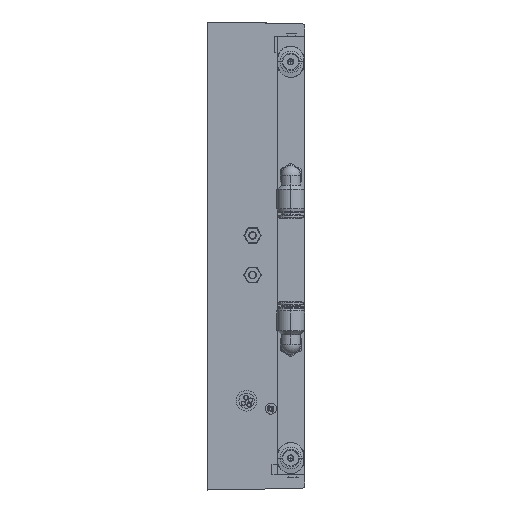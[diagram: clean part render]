
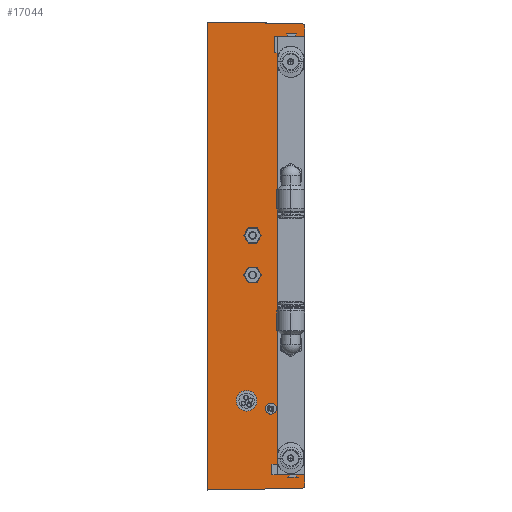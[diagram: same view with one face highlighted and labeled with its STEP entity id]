
A CAD part, left-side view. The second image highlights one B-rep face of the part: STEP entity #17044.
In plain terms, the highlighted planar face has unit normal (-1, 0, 0).
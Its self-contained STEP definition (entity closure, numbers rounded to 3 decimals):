
#200 = DIRECTION ( 'NONE',  ( -1., 0., 0. ) ) ;
#447 = EDGE_CURVE ( 'NONE', #21575, #22616, #28232, .T. ) ;
#731 = FACE_OUTER_BOUND ( 'NONE', #32740, .T. ) ;
#983 = DIRECTION ( 'NONE',  ( 0., 0., 1. ) ) ;
#1201 = CIRCLE ( 'NONE', #10112, 2.95 ) ;
#1770 = CARTESIAN_POINT ( 'NONE',  ( -65.297, 136.709, 124.258 ) ) ;
#2099 = DIRECTION ( 'NONE',  ( 0., 0., 1. ) ) ;
#2228 = AXIS2_PLACEMENT_3D ( 'NONE', #22250, #11081, #983 ) ;
#2326 = CIRCLE ( 'NONE', #31864, 2.95 ) ;
#2541 = DIRECTION ( 'NONE',  ( 0., 1., 0.017 ) ) ;
#2778 = ORIENTED_EDGE ( 'NONE', *, *, #10370, .T. ) ;
#3524 = CARTESIAN_POINT ( 'NONE',  ( -65.297, 131.271, 127.351 ) ) ;
#3568 = DIRECTION ( 'NONE',  ( 0., -1., 0. ) ) ;
#4029 = DIRECTION ( 'NONE',  ( 0., 0., 1. ) ) ;
#4249 = VERTEX_POINT ( 'NONE', #30624 ) ;
#4456 = ORIENTED_EDGE ( 'NONE', *, *, #4593, .F. ) ;
#4593 = EDGE_CURVE ( 'NONE', #29170, #23029, #27120, .T. ) ;
#4869 = EDGE_CURVE ( 'NONE', #22616, #29170, #26046, .T. ) ;
#5252 = VERTEX_POINT ( 'NONE', #15873 ) ;
#5351 = VERTEX_POINT ( 'NONE', #13621 ) ;
#5455 = VERTEX_POINT ( 'NONE', #30862 ) ;
#5619 = CARTESIAN_POINT ( 'NONE',  ( -65.297, 140.111, 155.508 ) ) ;
#6199 = VERTEX_POINT ( 'NONE', #9938 ) ;
#6610 = PLANE ( 'NONE',  #9953 ) ;
#6642 = VECTOR ( 'NONE', #3568, 1000. ) ;
#6955 = CARTESIAN_POINT ( 'NONE',  ( -65.297, 140.111, 295.408 ) ) ;
#7231 = EDGE_CURVE ( 'NONE', #14871, #23029, #12042, .T. ) ;
#7815 = VERTEX_POINT ( 'NONE', #22065 ) ;
#7887 = CIRCLE ( 'NONE', #18483, 3. ) ;
#8635 = EDGE_CURVE ( 'NONE', #12420, #5351, #7887, .T. ) ;
#8681 = EDGE_CURVE ( 'NONE', #27098, #7815, #2326, .T. ) ;
#8847 = CARTESIAN_POINT ( 'NONE',  ( -65.297, 129.661, 175.933 ) ) ;
#9391 = VECTOR ( 'NONE', #12373, 1000. ) ;
#9516 = AXIS2_PLACEMENT_3D ( 'NONE', #15552, #18697, #31608 ) ;
#9671 = CARTESIAN_POINT ( 'NONE',  ( -65.297, 140.111, 295.408 ) ) ;
#9810 = DIRECTION ( 'NONE',  ( 0., 1., 0.012 ) ) ;
#9938 = CARTESIAN_POINT ( 'NONE',  ( -65.297, 136.709, 124.258 ) ) ;
#9953 = AXIS2_PLACEMENT_3D ( 'NONE', #28079, #19528, #33324 ) ;
#10054 = CARTESIAN_POINT ( 'NONE',  ( -65.297, 149.461, 220.108 ) ) ;
#10112 = AXIS2_PLACEMENT_3D ( 'NONE', #10054, #15306, #12342 ) ;
#10269 = VERTEX_POINT ( 'NONE', #16006 ) ;
#10370 = EDGE_CURVE ( 'NONE', #5455, #10269, #24233, .T. ) ;
#10819 = DIRECTION ( 'NONE',  ( 0., 0., 1. ) ) ;
#11081 = DIRECTION ( 'NONE',  ( -1., 0., 0. ) ) ;
#11138 = VECTOR ( 'NONE', #2541, 1000. ) ;
#11672 = ORIENTED_EDGE ( 'NONE', *, *, #33175, .T. ) ;
#12042 = LINE ( 'NONE', #22695, #17247 ) ;
#12342 = DIRECTION ( 'NONE',  ( 0., 0., 1. ) ) ;
#12373 = DIRECTION ( 'NONE',  ( 0., 1., 0. ) ) ;
#12420 = VERTEX_POINT ( 'NONE', #25131 ) ;
#12426 = ORIENTED_EDGE ( 'NONE', *, *, #18445, .T. ) ;
#12892 = ORIENTED_EDGE ( 'NONE', *, *, #23146, .F. ) ;
#12920 = ORIENTED_EDGE ( 'NONE', *, *, #7231, .T. ) ;
#13285 = CARTESIAN_POINT ( 'NONE',  ( -65.297, 129.661, 129.508 ) ) ;
#13548 = CARTESIAN_POINT ( 'NONE',  ( -65.297, 129.661, 124.82 ) ) ;
#13621 = CARTESIAN_POINT ( 'NONE',  ( -65.297, 131.234, 300.291 ) ) ;
#14220 = CARTESIAN_POINT ( 'NONE',  ( -65.297, 140.111, 129.508 ) ) ;
#14260 = DIRECTION ( 'NONE',  ( 0., 0., -1. ) ) ;
#14324 = DIRECTION ( 'NONE',  ( 0., 0., 1. ) ) ;
#14477 = ORIENTED_EDGE ( 'NONE', *, *, #26697, .T. ) ;
#14619 = ORIENTED_EDGE ( 'NONE', *, *, #22463, .F. ) ;
#14690 = DIRECTION ( 'NONE',  ( 0., 1., -0.017 ) ) ;
#14859 = ORIENTED_EDGE ( 'NONE', *, *, #8681, .F. ) ;
#14871 = VERTEX_POINT ( 'NONE', #13548 ) ;
#14874 = VECTOR ( 'NONE', #33713, 1000. ) ;
#15191 = CARTESIAN_POINT ( 'NONE',  ( -65.297, 131.271, 297.291 ) ) ;
#15306 = DIRECTION ( 'NONE',  ( -1., 0., 0. ) ) ;
#15341 = ORIENTED_EDGE ( 'NONE', *, *, #23320, .F. ) ;
#15359 = DIRECTION ( 'NONE',  ( -1., 0., 0. ) ) ;
#15393 = EDGE_CURVE ( 'NONE', #6199, #10269, #25337, .T. ) ;
#15552 = CARTESIAN_POINT ( 'NONE',  ( -65.297, 149.461, 205.108 ) ) ;
#15598 = EDGE_LOOP ( 'NONE', ( #12892, #14859 ) ) ;
#15737 = ORIENTED_EDGE ( 'NONE', *, *, #33346, .T. ) ;
#15845 = ORIENTED_EDGE ( 'NONE', *, *, #8635, .T. ) ;
#15873 = CARTESIAN_POINT ( 'NONE',  ( -65.297, 136.709, 300.359 ) ) ;
#16006 = CARTESIAN_POINT ( 'NONE',  ( -65.297, 166.661, 123.735 ) ) ;
#16601 = DIRECTION ( 'NONE',  ( 0., 0., -1. ) ) ;
#16722 = CIRCLE ( 'NONE', #2228, 2.95 ) ;
#16865 = VERTEX_POINT ( 'NONE', #19034 ) ;
#16926 = VECTOR ( 'NONE', #14690, 1000. ) ;
#17044 = ADVANCED_FACE ( 'NONE', ( #22517, #22676, #731 ), #6610, .T. ) ;
#17247 = VECTOR ( 'NONE', #14324, 1000. ) ;
#17257 = ORIENTED_EDGE ( 'NONE', *, *, #15393, .F. ) ;
#17382 = CARTESIAN_POINT ( 'NONE',  ( -65.297, 166.661, 150.608 ) ) ;
#17990 = VERTEX_POINT ( 'NONE', #34259 ) ;
#18445 = EDGE_CURVE ( 'NONE', #5252, #5455, #26443, .T. ) ;
#18483 = AXIS2_PLACEMENT_3D ( 'NONE', #15191, #15359, #2099 ) ;
#18697 = DIRECTION ( 'NONE',  ( -1., 0., 0. ) ) ;
#18934 = VECTOR ( 'NONE', #22127, 1000. ) ;
#19034 = CARTESIAN_POINT ( 'NONE',  ( -65.297, 131.22, 124.352 ) ) ;
#19116 = VECTOR ( 'NONE', #9810, 1000. ) ;
#19403 = VECTOR ( 'NONE', #14260, 1000. ) ;
#19455 = CARTESIAN_POINT ( 'NONE',  ( -65.297, 149.461, 202.158 ) ) ;
#19473 = ORIENTED_EDGE ( 'NONE', *, *, #31781, .T. ) ;
#19528 = DIRECTION ( 'NONE',  ( -1., 0., 0. ) ) ;
#20320 = ORIENTED_EDGE ( 'NONE', *, *, #4869, .F. ) ;
#21575 = VERTEX_POINT ( 'NONE', #24784 ) ;
#22065 = CARTESIAN_POINT ( 'NONE',  ( -65.297, 149.461, 208.058 ) ) ;
#22127 = DIRECTION ( 'NONE',  ( 0., 0., 1. ) ) ;
#22250 = CARTESIAN_POINT ( 'NONE',  ( -65.297, 149.461, 220.108 ) ) ;
#22463 = EDGE_CURVE ( 'NONE', #17990, #4249, #16722, .T. ) ;
#22517 = FACE_BOUND ( 'NONE', #15598, .T. ) ;
#22616 = VERTEX_POINT ( 'NONE', #9671 ) ;
#22676 = FACE_BOUND ( 'NONE', #25363, .T. ) ;
#22695 = CARTESIAN_POINT ( 'NONE',  ( -65.297, 129.661, 175.933 ) ) ;
#23029 = VERTEX_POINT ( 'NONE', #13285 ) ;
#23093 = CARTESIAN_POINT ( 'NONE',  ( -65.297, 136.709, 300.359 ) ) ;
#23146 = EDGE_CURVE ( 'NONE', #7815, #27098, #24577, .T. ) ;
#23320 = EDGE_CURVE ( 'NONE', #4249, #17990, #1201, .T. ) ;
#24233 = LINE ( 'NONE', #17382, #19403 ) ;
#24253 = LINE ( 'NONE', #8847, #18934 ) ;
#24360 = CIRCLE ( 'NONE', #27681, 3. ) ;
#24469 = CARTESIAN_POINT ( 'NONE',  ( -65.297, 140.111, 129.508 ) ) ;
#24577 = CIRCLE ( 'NONE', #9516, 2.95 ) ;
#24784 = CARTESIAN_POINT ( 'NONE',  ( -65.297, 129.661, 295.408 ) ) ;
#24823 = CARTESIAN_POINT ( 'NONE',  ( -65.297, 140.111, 124.198 ) ) ;
#25131 = CARTESIAN_POINT ( 'NONE',  ( -65.297, 129.661, 299.822 ) ) ;
#25337 = LINE ( 'NONE', #24823, #16926 ) ;
#25363 = EDGE_LOOP ( 'NONE', ( #15341, #14619 ) ) ;
#26046 = LINE ( 'NONE', #5619, #32289 ) ;
#26443 = LINE ( 'NONE', #29393, #11138 ) ;
#26522 = CARTESIAN_POINT ( 'NONE',  ( -65.297, 149.461, 205.108 ) ) ;
#26697 = EDGE_CURVE ( 'NONE', #21575, #12420, #24253, .T. ) ;
#27098 = VERTEX_POINT ( 'NONE', #19455 ) ;
#27120 = LINE ( 'NONE', #14220, #6642 ) ;
#27681 = AXIS2_PLACEMENT_3D ( 'NONE', #3524, #32830, #4029 ) ;
#28079 = CARTESIAN_POINT ( 'NONE',  ( -65.297, 148.899, 175.933 ) ) ;
#28232 = LINE ( 'NONE', #6955, #9391 ) ;
#28260 = LINE ( 'NONE', #1770, #14874 ) ;
#28946 = ORIENTED_EDGE ( 'NONE', *, *, #447, .F. ) ;
#29170 = VERTEX_POINT ( 'NONE', #24469 ) ;
#29393 = CARTESIAN_POINT ( 'NONE',  ( -65.297, 146.724, 300.534 ) ) ;
#30624 = CARTESIAN_POINT ( 'NONE',  ( -65.297, 149.461, 223.058 ) ) ;
#30862 = CARTESIAN_POINT ( 'NONE',  ( -65.297, 166.661, 300.882 ) ) ;
#31608 = DIRECTION ( 'NONE',  ( 0., 0., 1. ) ) ;
#31781 = EDGE_CURVE ( 'NONE', #5351, #5252, #33389, .T. ) ;
#31864 = AXIS2_PLACEMENT_3D ( 'NONE', #26522, #200, #10819 ) ;
#32289 = VECTOR ( 'NONE', #16601, 1000. ) ;
#32740 = EDGE_LOOP ( 'NONE', ( #11672, #12920, #4456, #20320, #28946, #14477, #15845, #19473, #12426, #2778, #17257, #15737 ) ) ;
#32830 = DIRECTION ( 'NONE',  ( -1., 0., 0. ) ) ;
#33175 = EDGE_CURVE ( 'NONE', #16865, #14871, #24360, .T. ) ;
#33324 = DIRECTION ( 'NONE',  ( 0., 0., 1. ) ) ;
#33346 = EDGE_CURVE ( 'NONE', #6199, #16865, #28260, .T. ) ;
#33389 = LINE ( 'NONE', #23093, #19116 ) ;
#33713 = DIRECTION ( 'NONE',  ( 0., -1., 0.017 ) ) ;
#34259 = CARTESIAN_POINT ( 'NONE',  ( -65.297, 149.461, 217.158 ) ) ;
